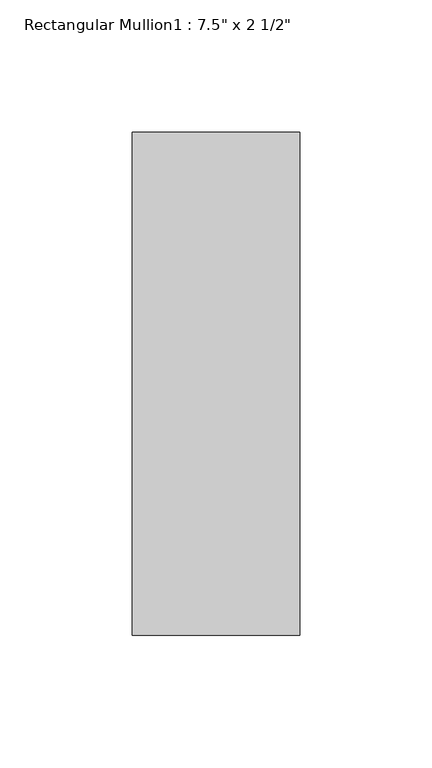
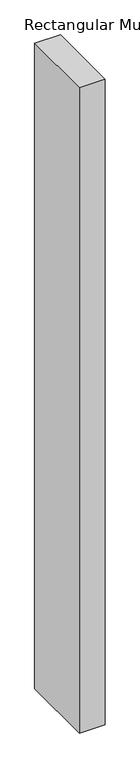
"""IFC4 building model written with IfcOpenShell, lengths in millimetres: member geometry."""

from ifc_helpers import new_model, si_unit, frame, origin, place, context, project, spatial, polyline, outline, extrude, source, transform, mapped, element, save


def member_7ad6e964(model_context):
    return source(origin(), model_context, "Body", "SweptSolid", [
        extrude(outline(polyline([(0.0, 165.1), (0.0, -25.4), (-63.5, -25.4), (-63.5, 165.1), (0.0, 165.1)])), frame((0.0, 0.0, -1676.4), z_axis=(0.0, 0.0, 1.0), x_axis=(1.0, 0.0, 0.0)), (0.0, 0.0, 1.0), 1676.4),
    ])


if __name__ == "__main__":
    model = new_model("IFC4")
    model_context = context("Model", 3, world=origin())
    ifc_project = project(units=[si_unit("LENGTHUNIT", "METRE", prefix="MILLI")], contexts=[model_context])
    site = spatial("IfcSite", under=ifc_project)
    building = spatial("IfcBuilding", under=site)
    placement = place(None, origin())
    member_shape = member_7ad6e964(model_context)
    element("IfcMember", 1, ObjectType="Rectangular Mullion1 : 7.5\" x 2 1/2\"", at=placement, inside=building, context=model_context, shape_type="MappedRepresentation", body=[
        mapped(member_shape, transform((0.0, 0.0, 0.0), x_axis=(1.0, 0.0, 0.0), y_axis=(0.0, 1.0, 0.0), z_axis=(0.0, 0.0, 1.0))),
    ])
    save(model, "model.ifc")
